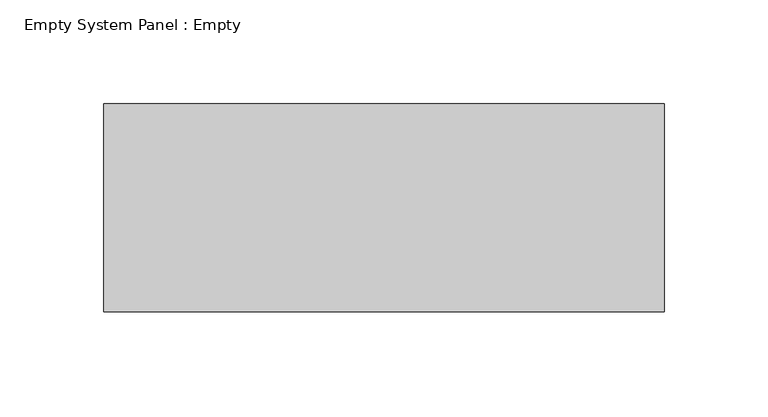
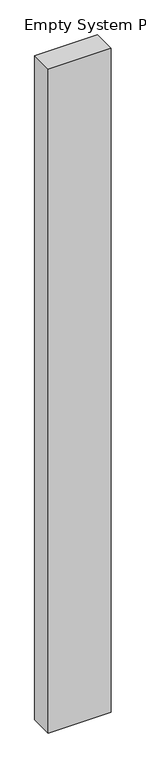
"""IFC4 building model written with IfcOpenShell, lengths in millimetres: plate geometry, Empty System Panel : Empty."""

import ifcopenshell
import ifcopenshell.guid

model = None  # the IFC model being written
_history = None  # IfcOwnerHistory: only IFC2X3 demands one
_inside = {}  # id of a spatial element -> (the spatial element, [elements in it])
_under = {}  # id of a project, library or spatial element -> (it, [spatial elements below it])
_declared = {}  # id of a project -> (the project, [libraries it declares])
_typed = {}  # id of a type object -> (the type object, [elements of that type])
_made_of = {}  # id of a material, layer set ... -> (it, [elements and type objects made of it])


def new_model(schema):
    """Start an empty IFC model of exactly this schema.

    Asked for "IFC4X3", IfcOpenShell would pick the latest addendum, in which some entities
    have other attributes; the version numbers below select the first issue.
    IFC2X3 requires an IfcOwnerHistory on every rooted entity: one is made here for all.
    """
    global model, _history
    if schema == "IFC4X3":
        model = ifcopenshell.file(schema_version=(4, 3, 0, 0))
    else:
        model = ifcopenshell.file(schema=schema)
    _inside.clear()
    _under.clear()
    _declared.clear()
    _typed.clear()
    _made_of.clear()
    _history = None
    if model.schema == "IFC2X3":
        org = make("IfcOrganization", Name="unknown")
        user = make(
            "IfcPersonAndOrganization",
            ThePerson=make("IfcPerson", FamilyName="unknown"),
            TheOrganization=org,
        )
        app = make(
            "IfcApplication",
            ApplicationDeveloper=org,
            Version="unknown",
            ApplicationFullName="unknown",
            ApplicationIdentifier="unknown",
        )
        _history = make(
            "IfcOwnerHistory",
            OwningUser=user,
            OwningApplication=app,
            ChangeAction="ADDED",
            CreationDate=0,
        )
    return model


def make(cls, **values):
    """One entity of the class cls with the attributes given. An attribute that is None is left unset."""
    return model.create_entity(
        cls, **{name: value for name, value in values.items() if value is not None}
    )


def rooted(cls, **values):
    """An entity with a GlobalId (a new one), such as an element, a storey or a relation."""
    return make(cls, GlobalId=ifcopenshell.guid.new(), OwnerHistory=_history, **values)


def si_unit(unit_type, name, prefix=None):
    """IfcSIUnit, for example si_unit("LENGTHUNIT", "METRE", prefix="MILLI")."""
    return make("IfcSIUnit", UnitType=unit_type, Prefix=prefix, Name=name)


def assignment(units):
    """IfcUnitAssignment: the units of a project."""
    return None if units is None else make("IfcUnitAssignment", Units=units)


def point(xyz):
    """IfcCartesianPoint."""
    return None if xyz is None else make("IfcCartesianPoint", Coordinates=xyz)


def direction(xyz):
    """IfcDirection."""
    return None if xyz is None else make("IfcDirection", DirectionRatios=xyz)


def frame(location, z_axis=None, x_axis=None):
    """IfcAxis2Placement3D, a coordinate frame: its origin and axes. An axis left out is left unset."""
    return make(
        "IfcAxis2Placement3D",
        Location=point(location),
        Axis=direction(z_axis),
        RefDirection=direction(x_axis),
    )


def origin():
    """The frame at (0, 0, 0) with its axes left unset."""
    return frame((0.0, 0.0, 0.0))


def origin_with_axes():
    """The frame at (0, 0, 0) with the z axis (0, 0, 1) and the x axis (1, 0, 0) written out."""
    return frame((0.0, 0.0, 0.0), z_axis=(0.0, 0.0, 1.0), x_axis=(1.0, 0.0, 0.0))


def place(relative_to, where):
    """IfcLocalPlacement: puts the frame where relative to a parent placement (None: the world)."""
    return make(
        "IfcLocalPlacement", PlacementRelTo=relative_to, RelativePlacement=where
    )


def context(
    kind, dimensions, precision=None, world=None, true_north=None, identifier=None
):
    """IfcGeometricRepresentationContext, for example the 3D "Model" context."""
    return make(
        "IfcGeometricRepresentationContext",
        ContextIdentifier=identifier,
        ContextType=kind,
        CoordinateSpaceDimension=dimensions,
        Precision=precision,
        WorldCoordinateSystem=world,
        TrueNorth=true_north,
    )


def project(units=None, contexts=None):
    """IfcProject with its units and contexts."""
    return rooted(
        "IfcProject",
        Name="project",
        RepresentationContexts=contexts,
        UnitsInContext=assignment(units),
    )


def spatial(cls, under=None, at=None, **own):
    """A site, building, storey or space (cls), placed at a placement, below another one or the project."""
    s = rooted(cls, ObjectPlacement=at, **own)
    if under is not None:
        _under.setdefault(under.id(), (under, []))[1].append(s)
    return s


def polyline(points):
    """IfcPolyline through the points."""
    return make("IfcPolyline", Points=[point(p) for p in points])


def outline(outer, holes=None, kind="AREA"):
    """IfcArbitraryClosedProfileDef: a profile drawn as a closed curve; with holes, ...WithVoids."""
    if holes is None:
        return make("IfcArbitraryClosedProfileDef", ProfileType=kind, OuterCurve=outer)
    return make(
        "IfcArbitraryProfileDefWithVoids",
        ProfileType=kind,
        OuterCurve=outer,
        InnerCurves=holes,
    )


def extrude(swept, where, along, depth):
    """IfcExtrudedAreaSolid: the profile swept, set in the frame where, extruded along a direction by depth."""
    return make(
        "IfcExtrudedAreaSolid",
        SweptArea=swept,
        Position=where,
        ExtrudedDirection=direction(along),
        Depth=depth,
    )


def shape(context_of_items, identifier, shape_type, items):
    """IfcShapeRepresentation: the items that make up one representation, for example the "Body"."""
    return make(
        "IfcShapeRepresentation",
        ContextOfItems=context_of_items,
        RepresentationIdentifier=identifier,
        RepresentationType=shape_type,
        Items=items,
    )


def source(mapping_origin, context_of_items, identifier, shape_type, items):
    """IfcRepresentationMap: a shape defined once, which mapped items show again and again."""
    return make(
        "IfcRepresentationMap",
        MappingOrigin=mapping_origin,
        MappedRepresentation=shape(context_of_items, identifier, shape_type, items),
    )


def transform(
    local_origin,
    x_axis=None,
    y_axis=None,
    z_axis=None,
    scale=None,
    scale2=None,
    scale3=None,
    uniform=True,
):
    """IfcCartesianTransformationOperator3D, or its non-uniform kind. x_axis, y_axis, z_axis: its Axis1, 2, 3."""
    if uniform:
        return make(
            "IfcCartesianTransformationOperator3D",
            Axis1=direction(x_axis),
            Axis2=direction(y_axis),
            LocalOrigin=point(local_origin),
            Scale=scale,
            Axis3=direction(z_axis),
        )
    return make(
        "IfcCartesianTransformationOperator3DnonUniform",
        Axis1=direction(x_axis),
        Axis2=direction(y_axis),
        LocalOrigin=point(local_origin),
        Scale=scale,
        Axis3=direction(z_axis),
        Scale2=scale2,
        Scale3=scale3,
    )


def mapped(mapping_source, mapping_target):
    """IfcMappedItem: shows the shape of a source again, moved by a transform."""
    return make(
        "IfcMappedItem", MappingSource=mapping_source, MappingTarget=mapping_target
    )


def made_of(thing, what):
    """Note that an element or type object is made of a material, layer set ...; save() writes the relation."""
    if what is not None:
        _made_of.setdefault(what.id(), (what, []))[1].append(thing)
    return thing


def element(
    cls,
    number,
    at=None,
    inside=None,
    cuts=None,
    type_object=None,
    material=None,
    context=None,
    identifier="Body",
    shape_type=None,
    held_by="IfcProductDefinitionShape",
    body=None,
    shapes=None,
    **own,
):
    """One element of the class cls, such as IfcWall. Its Tag is "e" and its number.

    at: its placement. inside: the storey or other place that contains it. cuts: it is an
    opening in that element (IfcRelVoidsElement). A single representation is given by context,
    identifier, shape_type and body (its items); several are given by shapes. held_by: the class
    of the entity that holds the representations. save() writes the other relations.
    """
    e = rooted(cls, Tag="e%d" % number, ObjectPlacement=at, **own)
    if body is not None:
        shapes = [shape(context, identifier, shape_type, body)]
    if shapes is not None:
        e.Representation = make(held_by, Representations=shapes)
    if inside is not None:
        _inside.setdefault(inside.id(), (inside, []))[1].append(e)
    if cuts is not None:
        rooted(
            "IfcRelVoidsElement", RelatingBuildingElement=cuts, RelatedOpeningElement=e
        )
    if type_object is not None:
        _typed.setdefault(type_object.id(), (type_object, []))[1].append(e)
    return made_of(e, material)


def aggregate(whole, parts):
    """IfcRelAggregates: a whole, such as a stair, and the parts it consists of."""
    return rooted("IfcRelAggregates", RelatingObject=whole, RelatedObjects=parts)


def save(model, path):
    """Write the relations noted so far, then the file.

    IfcRelAggregates (storeys below a building ...), IfcRelContainedInSpatialStructure (elements
    in a storey), IfcRelDefinesByType, IfcRelAssociatesMaterial and IfcRelDeclares: one each for
    every whole, place, type object, material and project.
    """
    for whole, parts in _under.values():
        aggregate(whole, parts)
    for where, things in _inside.values():
        rooted(
            "IfcRelContainedInSpatialStructure",
            RelatedElements=things,
            RelatingStructure=where,
        )
    for kind, things in _typed.values():
        rooted("IfcRelDefinesByType", RelatedObjects=things, RelatingType=kind)
    for what, things in _made_of.values():
        rooted("IfcRelAssociatesMaterial", RelatedObjects=things, RelatingMaterial=what)
    for by, libraries in _declared.values():
        rooted("IfcRelDeclares", RelatingContext=by, RelatedDefinitions=libraries)
    model.write(path)


def empty_system_panel_empty_78d8e544(model_context):
    return source(origin(), model_context, "Body", "SweptSolid", [
        extrude(outline(polyline([(134.6949135, -50.0), (-134.6949135, -50.0), (-134.6949135, 50.0), (134.6949135, 50.0), (134.6949135, -50.0)])), origin_with_axes(), (0.0, 0.0, 1.0), 3000.0),
    ])


if __name__ == "__main__":
    model = new_model("IFC4")
    model_context = context("Model", 3, world=origin())
    ifc_project = project(units=[si_unit("LENGTHUNIT", "METRE", prefix="MILLI")], contexts=[model_context])
    site = spatial("IfcSite", under=ifc_project)
    building = spatial("IfcBuilding", under=site)
    placement = place(None, origin())
    empty_system_panel_empty_shape = empty_system_panel_empty_78d8e544(model_context)
    element("IfcPlate", 1, ObjectType="Empty System Panel : Empty", at=placement, inside=building, context=model_context, shape_type="MappedRepresentation", body=[
        mapped(empty_system_panel_empty_shape, transform((0.0, 0.0, 0.0), x_axis=(1.0, 0.0, 0.0), y_axis=(0.0, 1.0, 0.0), z_axis=(0.0, 0.0, 1.0))),
    ])
    save(model, "model.ifc")
